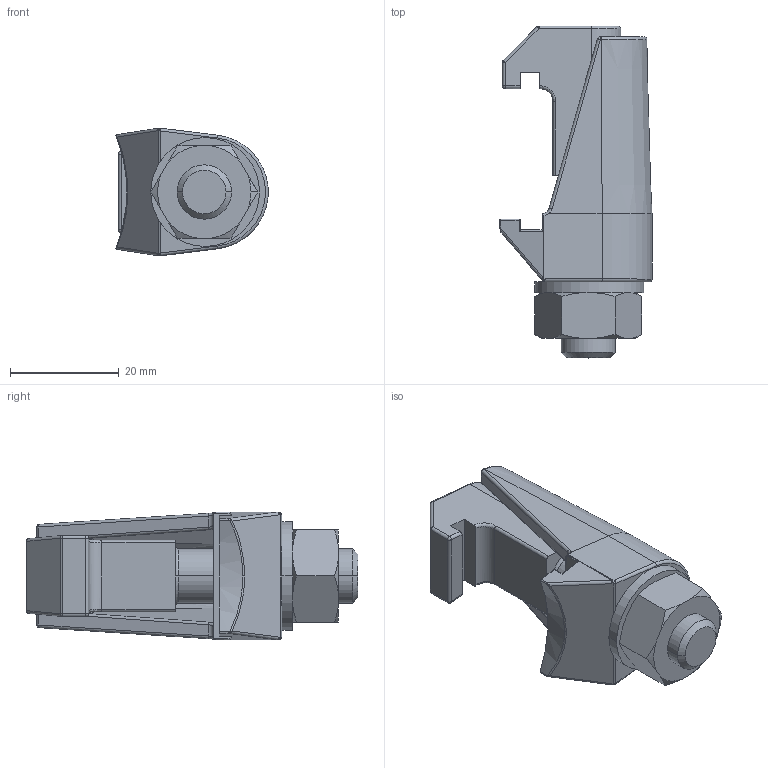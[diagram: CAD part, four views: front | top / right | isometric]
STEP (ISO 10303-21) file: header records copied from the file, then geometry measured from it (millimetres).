
FILE_DESCRIPTION((''),'2;1');
FILE_NAME('853004463_PNR_000_ASM','2015-11-09T',('l0100062'),('Copyright by Leybold GmbH'),'PRO/ENGINEER BY PARAMETRIC TECHNOLOGY CORPORATION, 2015280','PRO/ENGINEER BY PARAMETRIC TECHNOLOGY CORPORATION, 2015280','');
FILE_SCHEMA(('AUTOMOTIVE_DESIGN { 1 0 10303 214 1 1 1 1 }'));
Length unit declared in the file: millimetre
Products named in the file (5): 853004464_PNR_000; 853004465_PNR_000; 853004466_PNR_000; 22101108_DEI7089_10; 853004463_PNR_000_ASM
Assembly tree (4 placements, depth 2):
  853004463_PNR_000_ASM
    853004464_PNR_000
    853004465_PNR_000
    853004466_PNR_000
    22101108_DEI7089_10
Bounding box: 27.95 x 61 x 23.49 mm (x, y, z)
Volume: 18298.8 mm3; surface area: 9249 mm2
Topology: 4 solids, 4 shells, 148 faces, 357 edges, 218 vertices
Faces by surface type: cylinder 58, plane 40, cone 18, sphere 14, bspline 12, torus 6
Entity records: 6436 total; most frequent: CARTESIAN_POINT 1691, ORIENTED_EDGE 714, DIRECTION 690, PRESENTATION_STYLE_ASSIGNMENT 361, STYLED_ITEM 361, CURVE_STYLE 357, EDGE_CURVE 357, AXIS2_PLACEMENT_3D 268
